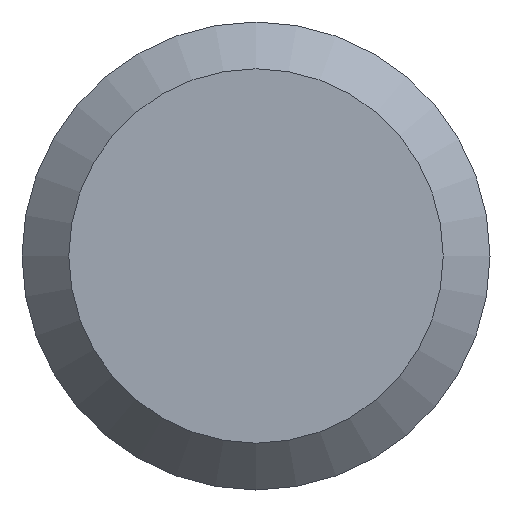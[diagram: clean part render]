
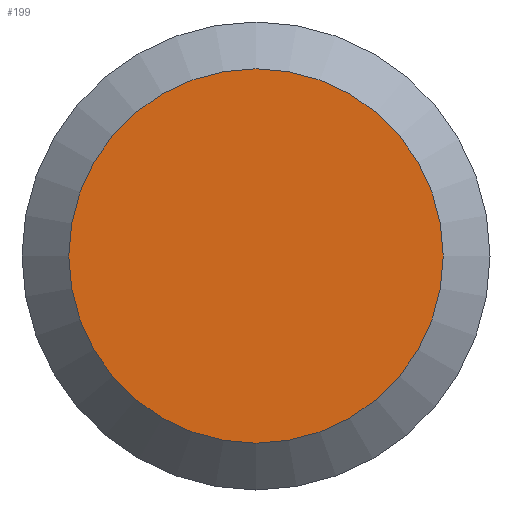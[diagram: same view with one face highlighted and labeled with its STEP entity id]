
A CAD part, left-side view. The second image highlights one B-rep face of the part: STEP entity #199.
In plain terms, the highlighted planar face has unit normal (-1, 0, 0).
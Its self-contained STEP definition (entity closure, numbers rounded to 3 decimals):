
#21 = PLANE ( 'NONE',  #137 ) ;
#43 = VERTEX_POINT ( 'NONE', #69 ) ;
#52 = DIRECTION ( 'NONE',  ( 0., 0., -1. ) ) ;
#53 = CARTESIAN_POINT ( 'NONE',  ( 0., 3.175, 0. ) ) ;
#69 = CARTESIAN_POINT ( 'NONE',  ( 0., 0., -2.54 ) ) ;
#78 = DIRECTION ( 'NONE',  ( 0., 0., -1. ) ) ;
#85 = FACE_OUTER_BOUND ( 'NONE', #188, .T. ) ;
#87 = DIRECTION ( 'NONE',  ( -1., 0., 0. ) ) ;
#91 = EDGE_CURVE ( 'NONE', #43, #43, #202, .T. ) ;
#120 = AXIS2_PLACEMENT_3D ( 'NONE', #209, #87, #78 ) ;
#137 = AXIS2_PLACEMENT_3D ( 'NONE', #53, #147, #52 ) ;
#141 = ORIENTED_EDGE ( 'NONE', *, *, #91, .T. ) ;
#147 = DIRECTION ( 'NONE',  ( 1., 0., 0. ) ) ;
#188 = EDGE_LOOP ( 'NONE', ( #141 ) ) ;
#199 = ADVANCED_FACE ( 'NONE', ( #85 ), #21, .F. ) ;
#202 = CIRCLE ( 'NONE', #120, 2.54 ) ;
#209 = CARTESIAN_POINT ( 'NONE',  ( 0., 0., 0. ) ) ;
